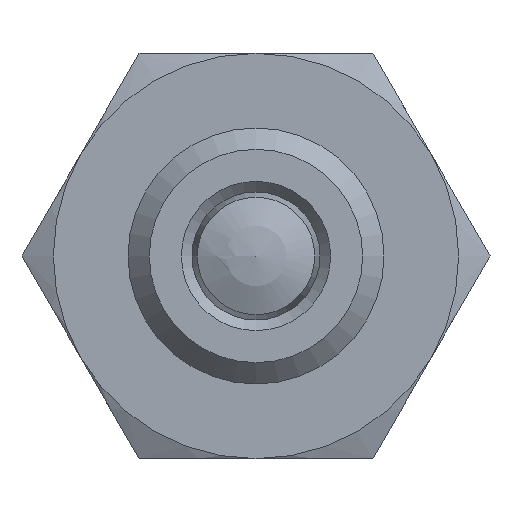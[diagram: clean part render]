
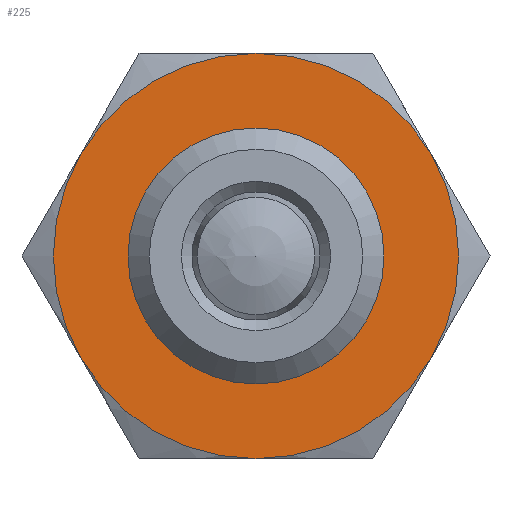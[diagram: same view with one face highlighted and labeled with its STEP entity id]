
A CAD part, front view. The second image highlights one B-rep face of the part: STEP entity #225.
In plain terms, the highlighted planar face has unit normal (0, -1, 0).
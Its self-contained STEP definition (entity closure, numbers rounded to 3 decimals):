
#225 = ADVANCED_FACE( '', ( #395, #396 ), #397, .F. );
#395 = FACE_BOUND( '', #609, .T. );
#396 = FACE_OUTER_BOUND( '', #610, .T. );
#397 = PLANE( '', #611 );
#609 = EDGE_LOOP( '', ( #1061 ) );
#610 = EDGE_LOOP( '', ( #1062, #1063, #1064, #1065, #1066, #1067 ) );
#611 = AXIS2_PLACEMENT_3D( '', #1068, #1069, #1070 );
#1061 = ORIENTED_EDGE( '', *, *, #1309, .F. );
#1062 = ORIENTED_EDGE( '', *, *, #1327, .T. );
#1063 = ORIENTED_EDGE( '', *, *, #1328, .T. );
#1064 = ORIENTED_EDGE( '', *, *, #1329, .T. );
#1065 = ORIENTED_EDGE( '', *, *, #1288, .T. );
#1066 = ORIENTED_EDGE( '', *, *, #1299, .T. );
#1067 = ORIENTED_EDGE( '', *, *, #1326, .T. );
#1068 = CARTESIAN_POINT( '', ( 9.5, 4., 0. ) );
#1069 = DIRECTION( '', ( 0., 1., 0. ) );
#1070 = DIRECTION( '', ( 0., 0., 1. ) );
#1288 = EDGE_CURVE( '', #1469, #1470, #1471, .T. );
#1299 = EDGE_CURVE( '', #1470, #1486, #1488, .T. );
#1309 = EDGE_CURVE( '', #1503, #1503, #1504, .T. );
#1326 = EDGE_CURVE( '', #1486, #1528, #1532, .T. );
#1327 = EDGE_CURVE( '', #1528, #1520, #1533, .T. );
#1328 = EDGE_CURVE( '', #1520, #1525, #1534, .T. );
#1329 = EDGE_CURVE( '', #1525, #1469, #1535, .T. );
#1469 = VERTEX_POINT( '', #1837 );
#1470 = VERTEX_POINT( '', #1838 );
#1471 = CIRCLE( '', #1839, 9.5 );
#1486 = VERTEX_POINT( '', #1879 );
#1488 = CIRCLE( '', #1886, 9.5 );
#1503 = VERTEX_POINT( '', #1919 );
#1504 = CIRCLE( '', #1920, 6. );
#1520 = VERTEX_POINT( '', #1948 );
#1525 = VERTEX_POINT( '', #1964 );
#1528 = VERTEX_POINT( '', #1977 );
#1532 = CIRCLE( '', #1996, 9.5 );
#1533 = CIRCLE( '', #1997, 9.5 );
#1534 = CIRCLE( '', #1998, 9.5 );
#1535 = CIRCLE( '', #1999, 9.5 );
#1837 = CARTESIAN_POINT( '', ( 0., 4., 9.5 ) );
#1838 = CARTESIAN_POINT( '', ( -8.227, 4., 4.75 ) );
#1839 = AXIS2_PLACEMENT_3D( '', #2169, #2170, #2171 );
#1879 = CARTESIAN_POINT( '', ( -8.227, 4., -4.75 ) );
#1886 = AXIS2_PLACEMENT_3D( '', #2184, #2185, #2186 );
#1919 = CARTESIAN_POINT( '', ( 0., 4., -6. ) );
#1920 = AXIS2_PLACEMENT_3D( '', #2199, #2200, #2201 );
#1948 = CARTESIAN_POINT( '', ( 8.227, 4., -4.75 ) );
#1964 = CARTESIAN_POINT( '', ( 8.227, 4., 4.75 ) );
#1977 = CARTESIAN_POINT( '', ( 0., 4., -9.5 ) );
#1996 = AXIS2_PLACEMENT_3D( '', #2217, #2218, #2219 );
#1997 = AXIS2_PLACEMENT_3D( '', #2220, #2221, #2222 );
#1998 = AXIS2_PLACEMENT_3D( '', #2223, #2224, #2225 );
#1999 = AXIS2_PLACEMENT_3D( '', #2226, #2227, #2228 );
#2169 = CARTESIAN_POINT( '', ( 0., 4., 0. ) );
#2170 = DIRECTION( '', ( 0., -1., 0. ) );
#2171 = DIRECTION( '', ( 0., 0., -1. ) );
#2184 = CARTESIAN_POINT( '', ( 0., 4., 0. ) );
#2185 = DIRECTION( '', ( 0., -1., 0. ) );
#2186 = DIRECTION( '', ( 0., 0., -1. ) );
#2199 = CARTESIAN_POINT( '', ( 0., 4., 0. ) );
#2200 = DIRECTION( '', ( 0., -1., 0. ) );
#2201 = DIRECTION( '', ( 0., 0., -1. ) );
#2217 = CARTESIAN_POINT( '', ( 0., 4., 0. ) );
#2218 = DIRECTION( '', ( 0., -1., 0. ) );
#2219 = DIRECTION( '', ( 0., 0., -1. ) );
#2220 = CARTESIAN_POINT( '', ( 0., 4., 0. ) );
#2221 = DIRECTION( '', ( 0., -1., 0. ) );
#2222 = DIRECTION( '', ( 0., 0., -1. ) );
#2223 = CARTESIAN_POINT( '', ( 0., 4., 0. ) );
#2224 = DIRECTION( '', ( 0., -1., 0. ) );
#2225 = DIRECTION( '', ( 0., 0., -1. ) );
#2226 = CARTESIAN_POINT( '', ( 0., 4., 0. ) );
#2227 = DIRECTION( '', ( 0., -1., 0. ) );
#2228 = DIRECTION( '', ( 0., 0., -1. ) );
